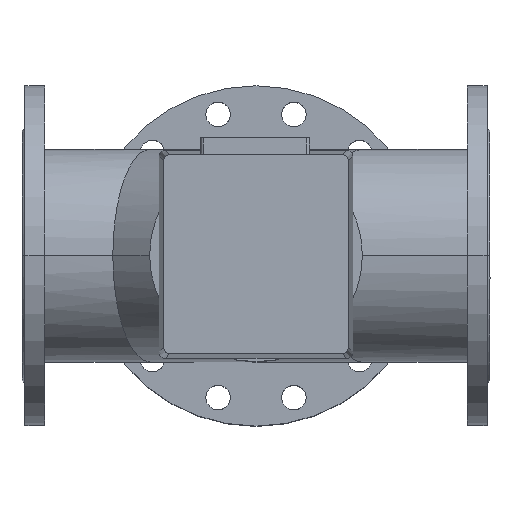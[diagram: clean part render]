
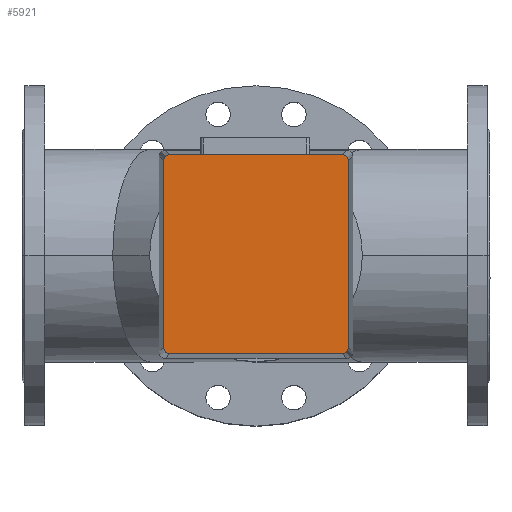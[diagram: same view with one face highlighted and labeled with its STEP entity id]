
A CAD part, top view. The second image highlights one B-rep face of the part: STEP entity #5921.
In plain terms, the highlighted planar face has unit normal (0, 0, 1).
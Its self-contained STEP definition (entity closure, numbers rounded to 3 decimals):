
#420=LINE('',#10178,#740);
#421=LINE('',#10182,#741);
#422=LINE('',#10186,#742);
#423=LINE('',#10190,#743);
#740=VECTOR('',#8385,304.8);
#741=VECTOR('',#8388,304.8);
#742=VECTOR('',#8391,304.8);
#743=VECTOR('',#8394,304.8);
#1426=FACE_OUTER_BOUND('',#1868,.T.);
#1868=EDGE_LOOP('',(#4978,#4979,#4980,#4981,#4982,#4983,#4984,#4985));
#2328=CIRCLE('',#6660,6.);
#2329=CIRCLE('',#6661,6.);
#2330=CIRCLE('',#6662,6.);
#2331=CIRCLE('',#6663,6.);
#2827=VERTEX_POINT('',#10176);
#2828=VERTEX_POINT('',#10177);
#2829=VERTEX_POINT('',#10179);
#2830=VERTEX_POINT('',#10181);
#2831=VERTEX_POINT('',#10183);
#2832=VERTEX_POINT('',#10185);
#2833=VERTEX_POINT('',#10187);
#2834=VERTEX_POINT('',#10189);
#3561=EDGE_CURVE('',#2827,#2828,#420,.T.);
#3562=EDGE_CURVE('',#2828,#2829,#2328,.T.);
#3563=EDGE_CURVE('',#2829,#2830,#421,.T.);
#3564=EDGE_CURVE('',#2830,#2831,#2329,.T.);
#3565=EDGE_CURVE('',#2831,#2832,#422,.T.);
#3566=EDGE_CURVE('',#2832,#2833,#2330,.T.);
#3567=EDGE_CURVE('',#2833,#2834,#423,.T.);
#3568=EDGE_CURVE('',#2834,#2827,#2331,.T.);
#4978=ORIENTED_EDGE('',*,*,#3561,.T.);
#4979=ORIENTED_EDGE('',*,*,#3562,.T.);
#4980=ORIENTED_EDGE('',*,*,#3563,.T.);
#4981=ORIENTED_EDGE('',*,*,#3564,.T.);
#4982=ORIENTED_EDGE('',*,*,#3565,.T.);
#4983=ORIENTED_EDGE('',*,*,#3566,.T.);
#4984=ORIENTED_EDGE('',*,*,#3567,.T.);
#4985=ORIENTED_EDGE('',*,*,#3568,.T.);
#5345=PLANE('',#6659);
#5921=ADVANCED_FACE('',(#1426),#5345,.T.);
#6659=AXIS2_PLACEMENT_3D('',#10175,#8383,#8384);
#6660=AXIS2_PLACEMENT_3D('',#10180,#8386,#8387);
#6661=AXIS2_PLACEMENT_3D('',#10184,#8389,#8390);
#6662=AXIS2_PLACEMENT_3D('',#10188,#8392,#8393);
#6663=AXIS2_PLACEMENT_3D('',#10191,#8395,#8396);
#8383=DIRECTION('center_axis',(0.,0.,1.));
#8384=DIRECTION('ref_axis',(0.,-1.,0.));
#8385=DIRECTION('',(0.,-1.,0.));
#8386=DIRECTION('center_axis',(0.,0.,1.));
#8387=DIRECTION('ref_axis',(1.,0.,0.));
#8388=DIRECTION('',(1.,0.,0.));
#8389=DIRECTION('center_axis',(0.,0.,1.));
#8390=DIRECTION('ref_axis',(1.,0.,0.));
#8391=DIRECTION('',(0.,1.,0.));
#8392=DIRECTION('center_axis',(0.,0.,1.));
#8393=DIRECTION('ref_axis',(1.,0.,0.));
#8394=DIRECTION('',(-1.,0.,0.));
#8395=DIRECTION('center_axis',(0.,0.,1.));
#8396=DIRECTION('ref_axis',(1.,0.,0.));
#10175=CARTESIAN_POINT('Origin',(0.,0.,
692.));
#10176=CARTESIAN_POINT('',(-105.,91.5,692.));
#10177=CARTESIAN_POINT('',(-105.,-91.5,692.));
#10178=CARTESIAN_POINT('',(-105.,-91.5,692.));
#10179=CARTESIAN_POINT('',(-99.,-97.5,692.));
#10180=CARTESIAN_POINT('Origin',(-99.,-91.5,692.));
#10181=CARTESIAN_POINT('',(99.,-97.5,692.));
#10182=CARTESIAN_POINT('',(99.,-97.5,692.));
#10183=CARTESIAN_POINT('',(105.,-91.5,692.));
#10184=CARTESIAN_POINT('Origin',(99.,-91.5,692.));
#10185=CARTESIAN_POINT('',(105.,91.5,692.));
#10186=CARTESIAN_POINT('',(105.,91.5,692.));
#10187=CARTESIAN_POINT('',(99.,97.5,692.));
#10188=CARTESIAN_POINT('Origin',(99.,91.5,692.));
#10189=CARTESIAN_POINT('',(-99.,97.5,692.));
#10190=CARTESIAN_POINT('',(-99.,97.5,692.));
#10191=CARTESIAN_POINT('Origin',(-99.,91.5,692.));
